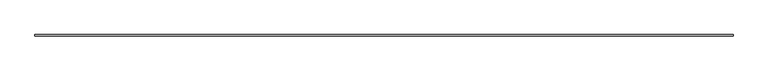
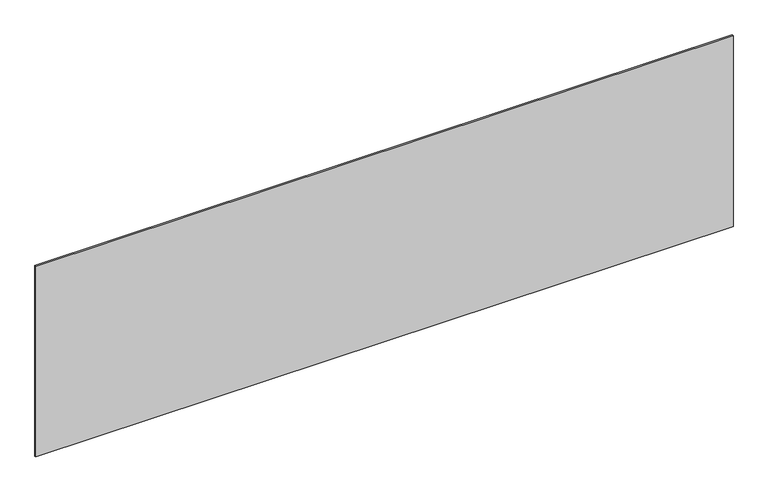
"""IFC4 building model written with IfcOpenShell, lengths in millimetres: plate geometry, システム パネル : 標準."""

from ifc_helpers import new_model, si_unit, origin, origin_with_axes, place, context, project, spatial, polyline, outline, extrude, source, transform, mapped, element, save


def plate_43654f06(model_context):
    return source(origin(), model_context, "Body", "SweptSolid", [
        extrude(outline(polyline([(2264.1666667, -5.0), (-2264.1666667, -5.0), (-2264.1666667, 5.0), (2264.1666667, 5.0), (2264.1666667, -5.0)])), origin_with_axes(), (0.0, 0.0, 1.0), 1309.8788902),
    ])


if __name__ == "__main__":
    model = new_model("IFC4")
    model_context = context("Model", 3, world=origin())
    ifc_project = project(units=[si_unit("LENGTHUNIT", "METRE", prefix="MILLI")], contexts=[model_context])
    site = spatial("IfcSite", under=ifc_project)
    building = spatial("IfcBuilding", under=site)
    placement = place(None, origin())
    plate_shape = plate_43654f06(model_context)
    element("IfcPlate", 1, ObjectType="システム パネル : 標準", at=placement, inside=building, context=model_context, shape_type="MappedRepresentation", body=[
        mapped(plate_shape, transform((0.0, 0.0, 0.0), x_axis=(1.0, 0.0, 0.0), y_axis=(0.0, 1.0, 0.0), z_axis=(0.0, 0.0, 1.0))),
    ])
    save(model, "model.ifc")
